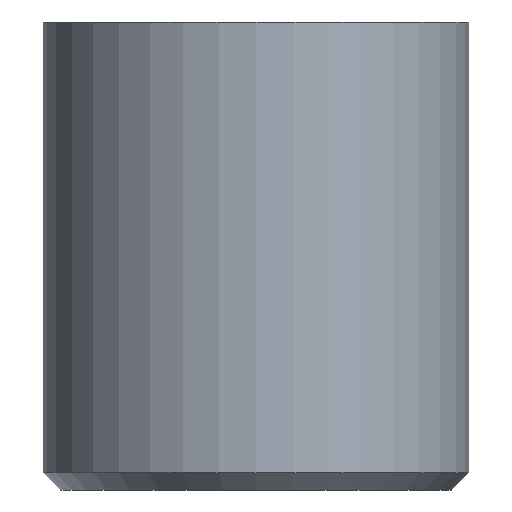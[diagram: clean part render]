
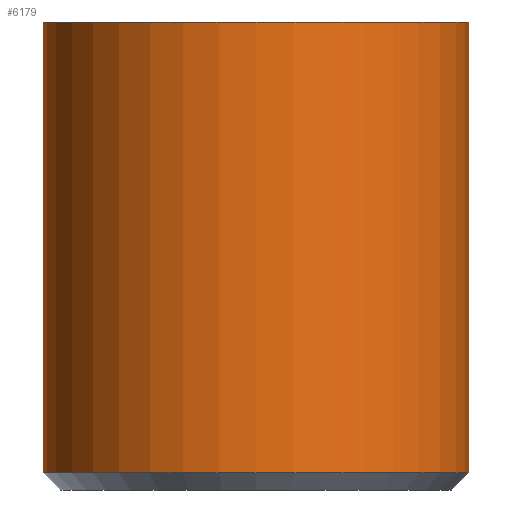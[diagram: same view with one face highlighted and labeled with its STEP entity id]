
A CAD part, front view. The second image highlights one B-rep face of the part: STEP entity #6179.
In plain terms, the highlighted cylindrical face has radius 10 mm (diameter 20 mm), a full revolution.
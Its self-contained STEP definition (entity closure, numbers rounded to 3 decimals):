
#839=CYLINDRICAL_SURFACE('',#6311,10.);
#1175=FACE_OUTER_BOUND('',#1541,.T.);
#1541=EDGE_LOOP('',(#5819,#5820,#5821,#5822));
#1995=LINE('',#12803,#2444);
#2444=VECTOR('',#6993,10.);
#2453=CIRCLE('',#6298,10.);
#2455=CIRCLE('',#6309,10.);
#3068=VERTEX_POINT('',#12782);
#3070=VERTEX_POINT('',#12797);
#3985=EDGE_CURVE('',#3068,#3068,#2453,.T.);
#3989=EDGE_CURVE('',#3070,#3070,#2455,.T.);
#3992=EDGE_CURVE('',#3068,#3070,#1995,.T.);
#5819=ORIENTED_EDGE('',*,*,#3985,.F.);
#5820=ORIENTED_EDGE('',*,*,#3992,.T.);
#5821=ORIENTED_EDGE('',*,*,#3989,.F.);
#5822=ORIENTED_EDGE('',*,*,#3992,.F.);
#6179=ADVANCED_FACE('',(#1175),#839,.T.);
#6298=AXIS2_PLACEMENT_3D('',#12783,#6962,#6963);
#6309=AXIS2_PLACEMENT_3D('',#12798,#6986,#6987);
#6311=AXIS2_PLACEMENT_3D('',#12802,#6991,#6992);
#6962=DIRECTION('center_axis',(0.,0.,1.));
#6963=DIRECTION('ref_axis',(1.,0.,0.));
#6986=DIRECTION('center_axis',(0.,0.,-1.));
#6987=DIRECTION('ref_axis',(1.,0.,0.));
#6991=DIRECTION('center_axis',(0.,0.,1.));
#6992=DIRECTION('ref_axis',(1.,0.,0.));
#6993=DIRECTION('',(0.,0.,-1.));
#12782=CARTESIAN_POINT('',(-10.,0.,22.));
#12783=CARTESIAN_POINT('Origin',(0.,0.,22.));
#12797=CARTESIAN_POINT('',(-10.,0.,0.8));
#12798=CARTESIAN_POINT('Origin',(0.,0.,0.8));
#12802=CARTESIAN_POINT('Origin',(0.,0.,0.));
#12803=CARTESIAN_POINT('',(-10.,0.,0.));
